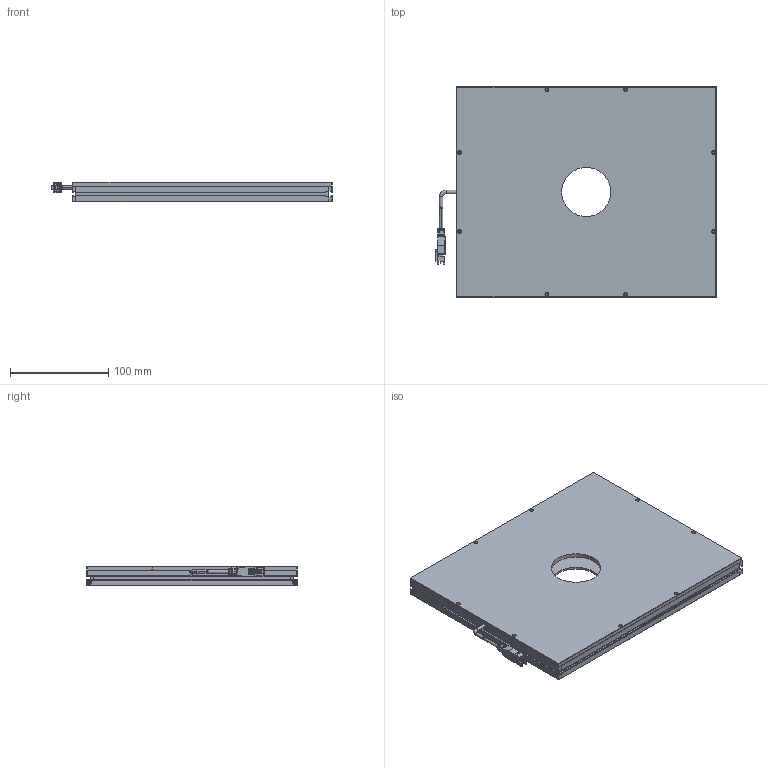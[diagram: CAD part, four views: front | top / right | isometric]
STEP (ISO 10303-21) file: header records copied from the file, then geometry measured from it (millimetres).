
FILE_DESCRIPTION (( 'STEP AP203' ), '1' );
FILE_NAME ('CRT-2KFLD250200Y50-¼òÒ×3DÍ¼.STEP', '2021-11-24T03:59:15', ( 'Admin' ), ( '' ), 'SwSTEP 2.0', 'SolidWorks 2018', '' );
FILE_SCHEMA (( 'CONFIG_CONTROL_DESIGN' ));
Length unit declared in the file: millimetre
Products named in the file (1): CRT-2KFLD250200Y50-潠眢3D芞
Bounding box: 284.95 x 214 x 20 mm (x, y, z)
Surface area: 294934.3 mm2 (no closed solid volume)
Topology: 0 solids, 10 shells, 328 faces, 1128 edges, 777 vertices
Faces by surface type: plane 187, cylinder 120, cone 11, bspline 8, torus 2
Entity records: 12611 total; most frequent: CARTESIAN_POINT 2863, DIRECTION 2036, ORIENTED_EDGE 1823, EDGE_CURVE 1126, VERTEX_POINT 777, VECTOR 726, LINE 726, AXIS2_PLACEMENT_3D 655
